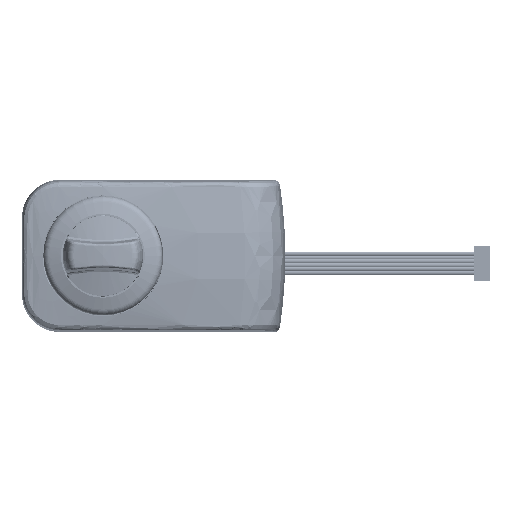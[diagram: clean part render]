
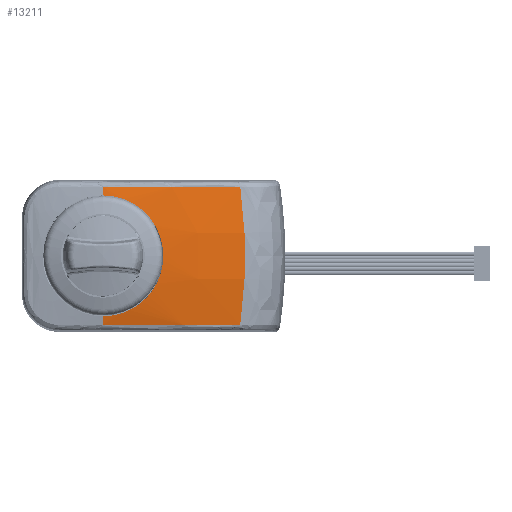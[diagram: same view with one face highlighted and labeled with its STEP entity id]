
A CAD part, top view. The second image highlights one B-rep face of the part: STEP entity #13211.
In plain terms, the highlighted free-form (B-spline) face has degree [3, 3] with [4, 4] control points.
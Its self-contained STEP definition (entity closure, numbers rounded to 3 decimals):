
#3898=FACE_BOUND('',#24051,.T.);
#3899=FACE_BOUND('',#24052,.T.);
#3900=FACE_BOUND('',#24053,.T.);
#4252=(
BOUNDED_SURFACE()
B_SPLINE_SURFACE(3,3,((#196122,#196123,#196124,#196125),(#196126,#196127,
#196128,#196129),(#196130,#196131,#196132,#196133),(#196134,#196135,#196136,
#196137)),.UNSPECIFIED.,.F.,.F.,.F.)
B_SPLINE_SURFACE_WITH_KNOTS((4,4),(4,4),(0.,1.),(0.,1.),.UNSPECIFIED.)
GEOMETRIC_REPRESENTATION_ITEM()
RATIONAL_B_SPLINE_SURFACE(((1.,0.997,0.997,1.),
(0.993,0.99,0.99,0.993),
(0.993,0.99,0.99,0.993),
(1.,0.997,0.997,1.)))
REPRESENTATION_ITEM('')
SURFACE()
);
#13211=ADVANCED_FACE('',(#3898,#3899,#3900),#4252,.T.);
#24051=EDGE_LOOP('',(#48434,#48435,#48436));
#24052=EDGE_LOOP('',(#48437,#48438,#48439));
#24053=EDGE_LOOP('',(#48440,#48441,#48442,#48443,#48444,#48445));
#48434=ORIENTED_EDGE('',*,*,#75869,.T.);
#48435=ORIENTED_EDGE('',*,*,#75870,.T.);
#48436=ORIENTED_EDGE('',*,*,#75871,.T.);
#48437=ORIENTED_EDGE('',*,*,#75872,.T.);
#48438=ORIENTED_EDGE('',*,*,#75873,.T.);
#48439=ORIENTED_EDGE('',*,*,#75874,.F.);
#48440=ORIENTED_EDGE('',*,*,#75867,.F.);
#48441=ORIENTED_EDGE('',*,*,#75661,.T.);
#48442=ORIENTED_EDGE('',*,*,#75865,.F.);
#48443=ORIENTED_EDGE('',*,*,#75875,.T.);
#48444=ORIENTED_EDGE('',*,*,#75876,.T.);
#48445=ORIENTED_EDGE('',*,*,#75877,.T.);
#62130=VERTEX_POINT('',#193076);
#62131=VERTEX_POINT('',#193077);
#62288=VERTEX_POINT('',#195993);
#62289=VERTEX_POINT('',#196034);
#62290=VERTEX_POINT('',#196072);
#62291=VERTEX_POINT('',#196073);
#62292=VERTEX_POINT('',#196078);
#62293=VERTEX_POINT('',#196087);
#62294=VERTEX_POINT('',#196088);
#62295=VERTEX_POINT('',#196093);
#62296=VERTEX_POINT('',#196101);
#62297=VERTEX_POINT('',#196106);
#75661=EDGE_CURVE('',#62130,#62131,#79975,.T.);
#75865=EDGE_CURVE('',#62288,#62131,#80132,.T.);
#75867=EDGE_CURVE('',#62130,#62289,#80134,.T.);
#75869=EDGE_CURVE('',#62290,#62291,#97823,.T.);
#75870=EDGE_CURVE('',#62291,#62292,#80136,.T.);
#75871=EDGE_CURVE('',#62292,#62290,#80137,.T.);
#75872=EDGE_CURVE('',#62293,#62294,#80138,.T.);
#75873=EDGE_CURVE('',#62294,#62295,#80139,.T.);
#75874=EDGE_CURVE('',#62293,#62295,#97824,.T.);
#75875=EDGE_CURVE('',#62288,#62296,#80140,.T.);
#75876=EDGE_CURVE('',#62296,#62297,#80141,.T.);
#75877=EDGE_CURVE('',#62297,#62289,#80142,.T.);
#79975=B_SPLINE_CURVE_WITH_KNOTS('',3,(#193062,#193063,#193064,#193065,
#193066,#193067,#193068,#193069,#193070,#193071,#193072,#193073,#193074,
#193075),.UNSPECIFIED.,.F.,.F.,(4,2,2,2,2,2,4),(0.,0.125,0.25,0.5,0.625,
0.75,1.),.UNSPECIFIED.);
#80132=B_SPLINE_CURVE_WITH_KNOTS('',3,(#195989,#195990,#195991,#195992),
 .UNSPECIFIED.,.F.,.F.,(4,4),(0.,1.),.UNSPECIFIED.);
#80134=B_SPLINE_CURVE_WITH_KNOTS('',3,(#196030,#196031,#196032,#196033),
 .UNSPECIFIED.,.F.,.F.,(4,4),(0.,1.),.UNSPECIFIED.);
#80136=B_SPLINE_CURVE_WITH_KNOTS('',3,(#196074,#196075,#196076,#196077),
 .UNSPECIFIED.,.F.,.F.,(4,4),(0.,1.),.UNSPECIFIED.);
#80137=B_SPLINE_CURVE_WITH_KNOTS('',3,(#196079,#196080,#196081,#196082),
 .UNSPECIFIED.,.F.,.F.,(4,4),(0.,1.),.UNSPECIFIED.);
#80138=B_SPLINE_CURVE_WITH_KNOTS('',3,(#196083,#196084,#196085,#196086),
 .UNSPECIFIED.,.F.,.F.,(4,4),(0.,1.),.UNSPECIFIED.);
#80139=B_SPLINE_CURVE_WITH_KNOTS('',3,(#196089,#196090,#196091,#196092),
 .UNSPECIFIED.,.F.,.F.,(4,4),(0.,1.),.UNSPECIFIED.);
#80140=B_SPLINE_CURVE_WITH_KNOTS('',3,(#196095,#196096,#196097,#196098,
#196099,#196100),.UNSPECIFIED.,.F.,.F.,(4,2,4),(0.,0.5,1.),
 .UNSPECIFIED.);
#80141=B_SPLINE_CURVE_WITH_KNOTS('',3,(#196102,#196103,#196104,#196105),
 .UNSPECIFIED.,.F.,.F.,(4,4),(0.,1.),.UNSPECIFIED.);
#80142=B_SPLINE_CURVE_WITH_KNOTS('',3,(#196107,#196108,#196109,#196110,
#196111,#196112,#196113,#196114,#196115,#196116,#196117,#196118,#196119,
#196120,#196121),.UNSPECIFIED.,.F.,.F.,(4,2,2,1,1,1,2,2,4),(0.,0.25,
0.375,0.438,0.469,0.484,
0.492,0.5,1.),.UNSPECIFIED.);
#97823=LINE('',#196071,#107269);
#97824=LINE('',#196094,#107270);
#107269=VECTOR('',#139915,1.);
#107270=VECTOR('',#139916,1.);
#139915=DIRECTION('',(0.863,0.498,-0.089));
#139916=DIRECTION('',(0.863,-0.498,-0.089));
#193062=CARTESIAN_POINT('',(0.,19.05,67.285));
#193063=CARTESIAN_POINT('',(2.517,19.05,67.285));
#193064=CARTESIAN_POINT('',(4.987,18.554,67.312));
#193065=CARTESIAN_POINT('',(9.601,16.642,67.403));
#193066=CARTESIAN_POINT('',(11.714,15.227,67.466));
#193067=CARTESIAN_POINT('',(16.985,9.956,67.657));
#193068=CARTESIAN_POINT('',(19.047,4.983,67.773));
#193069=CARTESIAN_POINT('',(19.052,-2.472,67.773));
#193070=CARTESIAN_POINT('',(18.559,-4.969,67.747));
#193071=CARTESIAN_POINT('',(16.653,-9.582,67.657));
#193072=CARTESIAN_POINT('',(15.257,-11.681,67.595));
#193073=CARTESIAN_POINT('',(9.927,-17.019,67.401));
#193074=CARTESIAN_POINT('',(5.035,-19.05,67.285));
#193075=CARTESIAN_POINT('',(0.,-19.05,67.285));
#193076=CARTESIAN_POINT('',(0.,19.05,67.285));
#193077=CARTESIAN_POINT('',(0.,-19.05,67.285));
#195989=CARTESIAN_POINT('',(0.,-21.729,66.918));
#195990=CARTESIAN_POINT('',(0.,-20.837,67.048));
#195991=CARTESIAN_POINT('',(0.,-19.944,67.171));
#195992=CARTESIAN_POINT('',(0.,-19.05,67.285));
#195993=CARTESIAN_POINT('',(0.,-21.729,66.918));
#196030=CARTESIAN_POINT('',(0.,19.05,67.285));
#196031=CARTESIAN_POINT('',(0.,19.944,67.171));
#196032=CARTESIAN_POINT('',(0.,20.837,67.048));
#196033=CARTESIAN_POINT('',(0.,21.729,66.918));
#196034=CARTESIAN_POINT('',(0.,21.729,66.918));
#196071=CARTESIAN_POINT('',(16.598,9.583,67.641));
#196072=CARTESIAN_POINT('',(16.59,9.578,67.642));
#196073=CARTESIAN_POINT('',(16.606,9.587,67.64));
#196074=CARTESIAN_POINT('',(16.606,9.588,67.64));
#196075=CARTESIAN_POINT('',(16.757,9.326,67.647));
#196076=CARTESIAN_POINT('',(16.901,9.062,67.654));
#196077=CARTESIAN_POINT('',(17.039,8.795,67.66));
#196078=CARTESIAN_POINT('',(17.039,8.795,67.66));
#196079=CARTESIAN_POINT('',(17.039,8.795,67.66));
#196080=CARTESIAN_POINT('',(16.895,9.06,67.654));
#196081=CARTESIAN_POINT('',(16.745,9.322,67.648));
#196082=CARTESIAN_POINT('',(16.59,9.578,67.642));
#196083=CARTESIAN_POINT('',(16.59,-9.578,67.642));
#196084=CARTESIAN_POINT('',(16.745,-9.321,67.648));
#196085=CARTESIAN_POINT('',(16.895,-9.06,67.654));
#196086=CARTESIAN_POINT('',(17.039,-8.795,67.66));
#196087=CARTESIAN_POINT('',(16.59,-9.578,67.642));
#196088=CARTESIAN_POINT('',(17.039,-8.795,67.66));
#196089=CARTESIAN_POINT('',(17.039,-8.795,67.66));
#196090=CARTESIAN_POINT('',(16.9,-9.064,67.654));
#196091=CARTESIAN_POINT('',(16.756,-9.328,67.647));
#196092=CARTESIAN_POINT('',(16.606,-9.588,67.64));
#196093=CARTESIAN_POINT('',(16.606,-9.588,67.64));
#196094=CARTESIAN_POINT('',(16.598,-9.583,67.641));
#196095=CARTESIAN_POINT('',(0.,-21.729,66.918));
#196096=CARTESIAN_POINT('',(9.557,-21.71,66.921));
#196097=CARTESIAN_POINT('',(17.957,-21.7,66.378));
#196098=CARTESIAN_POINT('',(32.393,-21.696,64.909));
#196099=CARTESIAN_POINT('',(38.431,-21.702,63.981));
#196100=CARTESIAN_POINT('',(43.309,-21.718,63.115));
#196101=CARTESIAN_POINT('',(43.309,-21.718,63.115));
#196102=CARTESIAN_POINT('',(43.309,-21.718,63.115));
#196103=CARTESIAN_POINT('',(45.313,-7.34,64.897));
#196104=CARTESIAN_POINT('',(45.313,7.342,64.897));
#196105=CARTESIAN_POINT('',(43.309,21.718,63.115));
#196106=CARTESIAN_POINT('',(43.309,21.718,63.115));
#196107=CARTESIAN_POINT('',(43.309,21.718,63.115));
#196108=CARTESIAN_POINT('',(40.132,21.708,63.679));
#196109=CARTESIAN_POINT('',(36.746,21.701,64.216));
#196110=CARTESIAN_POINT('',(31.354,21.696,64.943));
#196111=CARTESIAN_POINT('',(29.504,21.695,65.172));
#196112=CARTESIAN_POINT('',(26.651,21.694,65.491));
#196113=CARTESIAN_POINT('',(25.204,21.694,65.644));
#196114=CARTESIAN_POINT('',(23.483,21.695,65.811));
#196115=CARTESIAN_POINT('',(22.613,21.696,65.892));
#196116=CARTESIAN_POINT('',(22.239,21.696,65.925));
#196117=CARTESIAN_POINT('',(21.989,21.696,65.948));
#196118=CARTESIAN_POINT('',(21.817,21.696,65.963));
#196119=CARTESIAN_POINT('',(16.711,21.699,66.411));
#196120=CARTESIAN_POINT('',(9.464,21.711,66.921));
#196121=CARTESIAN_POINT('',(0.,21.729,66.918));
#196122=CARTESIAN_POINT('',(0.,21.988,66.88));
#196123=CARTESIAN_POINT('',(15.034,21.988,66.88));
#196124=CARTESIAN_POINT('',(30.006,21.988,65.518));
#196125=CARTESIAN_POINT('',(44.793,21.988,62.807));
#196126=CARTESIAN_POINT('',(0.,7.383,69.044));
#196127=CARTESIAN_POINT('',(15.165,7.383,69.044));
#196128=CARTESIAN_POINT('',(30.267,7.383,67.671));
#196129=CARTESIAN_POINT('',(45.184,7.383,64.936));
#196130=CARTESIAN_POINT('',(0.,-7.383,69.044));
#196131=CARTESIAN_POINT('',(15.165,-7.383,69.044));
#196132=CARTESIAN_POINT('',(30.267,-7.383,67.671));
#196133=CARTESIAN_POINT('',(45.184,-7.383,64.936));
#196134=CARTESIAN_POINT('',(0.,-21.988,66.88));
#196135=CARTESIAN_POINT('',(15.034,-21.988,66.88));
#196136=CARTESIAN_POINT('',(30.006,-21.988,65.518));
#196137=CARTESIAN_POINT('',(44.793,-21.988,62.807));
